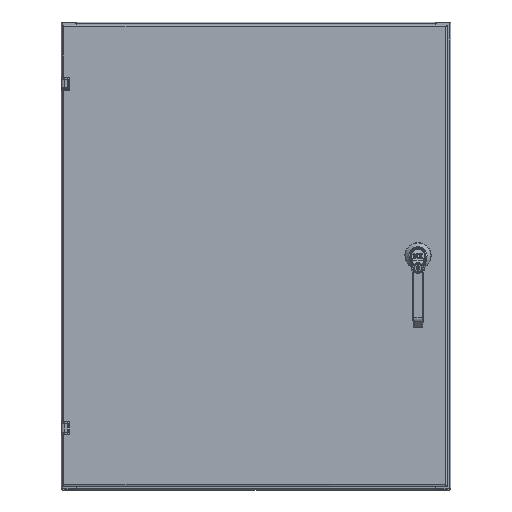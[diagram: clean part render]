
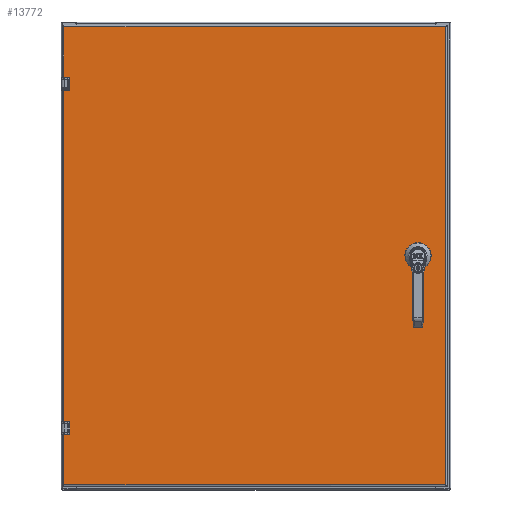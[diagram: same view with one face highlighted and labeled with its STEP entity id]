
A CAD part, top view. The second image highlights one B-rep face of the part: STEP entity #13772.
In plain terms, the highlighted planar face has unit normal (0, 0, 1).
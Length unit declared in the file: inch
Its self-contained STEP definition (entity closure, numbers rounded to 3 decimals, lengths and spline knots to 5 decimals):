
#10393=CARTESIAN_POINT('',(12.5625,-1.09,0.));
#10394=DIRECTION('',(0.,0.,1.));
#10395=DIRECTION('',(-1.,0.,0.));
#10396=AXIS2_PLACEMENT_3D('',#10393,#10394,#10395);
#10401=CARTESIAN_POINT('',(12.5625,-1.09,0.));
#10402=DIRECTION('',(0.,0.,1.));
#10403=DIRECTION('',(1.,0.,0.));
#10404=AXIS2_PLACEMENT_3D('',#10401,#10402,#10403);
#10409=DIRECTION('',(1.,0.,0.));
#10410=VECTOR('',#10409,0.39715);
#10411=CARTESIAN_POINT('',(12.36392,0.396,0.));
#10412=LINE('',#10411,#10410);
#10416=CARTESIAN_POINT('',(12.5625,0.,0.));
#10417=DIRECTION('',(0.,0.,1.));
#10418=DIRECTION('',(-0.448,0.894,0.));
#10419=AXIS2_PLACEMENT_3D('',#10416,#10417,#10418);
#10424=DIRECTION('',(0.,1.,0.));
#10425=VECTOR('',#10424,0.39715);
#10426=CARTESIAN_POINT('',(12.1665,-0.19858,0.));
#10427=LINE('',#10426,#10425);
#10431=CARTESIAN_POINT('',(12.5625,0.,0.));
#10432=DIRECTION('',(0.,0.,1.));
#10433=DIRECTION('',(-0.894,-0.448,0.));
#10434=AXIS2_PLACEMENT_3D('',#10431,#10432,#10433);
#10439=DIRECTION('',(-1.,0.,0.));
#10440=VECTOR('',#10439,0.39715);
#10441=CARTESIAN_POINT('',(12.76108,-0.396,0.));
#10442=LINE('',#10441,#10440);
#10446=CARTESIAN_POINT('',(12.5625,0.,0.));
#10447=DIRECTION('',(0.,0.,1.));
#10448=DIRECTION('',(0.448,-0.894,0.));
#10449=AXIS2_PLACEMENT_3D('',#10446,#10447,#10448);
#10454=DIRECTION('',(0.,-1.,0.));
#10455=VECTOR('',#10454,0.39715);
#10456=CARTESIAN_POINT('',(12.9585,0.19858,0.));
#10457=LINE('',#10456,#10455);
#10461=CARTESIAN_POINT('',(12.5625,0.,0.));
#10462=DIRECTION('',(0.,0.,1.));
#10463=DIRECTION('',(0.894,0.448,0.));
#10464=AXIS2_PLACEMENT_3D('',#10461,#10462,#10463);
#10469=DIRECTION('',(1.,0.,0.));
#10470=VECTOR('',#10469,0.363);
#10471=CARTESIAN_POINT('',(-14.6955,-13.595,0.));
#10472=LINE('',#10471,#10470);
#10476=DIRECTION('',(0.,-1.,0.));
#10477=VECTOR('',#10476,0.63);
#10478=CARTESIAN_POINT('',(-14.3025,-12.935,0.));
#10479=LINE('',#10478,#10477);
#10483=DIRECTION('',(1.,0.,0.));
#10484=VECTOR('',#10483,0.363);
#10485=CARTESIAN_POINT('',(-14.6955,-12.905,0.));
#10486=LINE('',#10485,#10484);
#10490=DIRECTION('',(1.,0.,0.));
#10491=VECTOR('',#10490,0.363);
#10492=CARTESIAN_POINT('',(-14.6955,12.905,0.));
#10493=LINE('',#10492,#10491);
#10497=DIRECTION('',(0.,-1.,0.));
#10498=VECTOR('',#10497,0.63);
#10499=CARTESIAN_POINT('',(-14.3025,13.565,0.));
#10500=LINE('',#10499,#10498);
#10504=DIRECTION('',(1.,0.,0.));
#10505=VECTOR('',#10504,0.363);
#10506=CARTESIAN_POINT('',(-14.6955,13.595,0.));
#10507=LINE('',#10506,#10505);
#11044=DIRECTION('',(0.,-1.,0.));
#11045=VECTOR('',#11044,35.266);
#11046=CARTESIAN_POINT('',(14.6955,17.633,0.));
#11047=LINE('',#11046,#11045);
#11116=DIRECTION('',(1.,0.,0.));
#11117=VECTOR('',#11116,29.391);
#11118=CARTESIAN_POINT('',(-14.6955,17.633,0.));
#11119=LINE('',#11118,#11117);
#11228=DIRECTION('',(0.,1.,0.));
#11229=VECTOR('',#11228,25.81);
#11230=CARTESIAN_POINT('',(-14.6955,-12.905,0.));
#11231=LINE('',#11230,#11229);
#11235=CARTESIAN_POINT('',(-14.6955,17.633,0.));
#11272=DIRECTION('',(0.,1.,0.));
#11273=VECTOR('',#11272,4.038);
#11274=CARTESIAN_POINT('',(-14.6955,13.595,0.));
#11275=LINE('',#11274,#11273);
#11330=DIRECTION('',(0.,1.,0.));
#11331=VECTOR('',#11330,4.038);
#11332=CARTESIAN_POINT('',(-14.6955,-17.633,0.));
#11333=LINE('',#11332,#11331);
#11367=CARTESIAN_POINT('',(-14.3325,-12.935,0.));
#11368=DIRECTION('',(0.,0.,-1.));
#11369=DIRECTION('',(0.,1.,0.));
#11370=AXIS2_PLACEMENT_3D('',#11367,#11368,#11369);
#11397=CARTESIAN_POINT('',(-14.3325,-13.565,0.));
#11398=DIRECTION('',(0.,0.,-1.));
#11399=DIRECTION('',(1.,0.,0.));
#11400=AXIS2_PLACEMENT_3D('',#11397,#11398,#11399);
#11799=DIRECTION('',(-1.,0.,0.));
#11800=VECTOR('',#11799,29.391);
#11801=CARTESIAN_POINT('',(14.6955,-17.633,0.));
#11802=LINE('',#11801,#11800);
#12154=CARTESIAN_POINT('',(-14.3325,13.565,0.));
#12155=DIRECTION('',(0.,0.,-1.));
#12156=DIRECTION('',(0.,1.,0.));
#12157=AXIS2_PLACEMENT_3D('',#12154,#12155,#12156);
#12184=CARTESIAN_POINT('',(-14.3325,12.935,0.));
#12185=DIRECTION('',(0.,0.,-1.));
#12186=DIRECTION('',(1.,0.,0.));
#12187=AXIS2_PLACEMENT_3D('',#12184,#12185,#12186);
#13295=CARTESIAN_POINT('',(14.6955,17.633,0.));
#13296=CARTESIAN_POINT('',(14.6955,-17.633,0.));
#13297=VERTEX_POINT('',#13295);
#13298=VERTEX_POINT('',#13296);
#13477=VERTEX_POINT('',#11235);
#13482=CARTESIAN_POINT('',(-14.6955,-17.633,0.));
#13484=VERTEX_POINT('',#13482);
#13557=CARTESIAN_POINT('',(12.4375,-1.09,0.));
#13558=CARTESIAN_POINT('',(12.6875,-1.09,0.));
#13559=VERTEX_POINT('',#13557);
#13560=VERTEX_POINT('',#13558);
#13561=CARTESIAN_POINT('',(12.36392,0.396,0.));
#13562=CARTESIAN_POINT('',(12.76108,0.396,0.));
#13563=VERTEX_POINT('',#13561);
#13564=VERTEX_POINT('',#13562);
#13565=CARTESIAN_POINT('',(12.9585,0.19858,0.));
#13566=VERTEX_POINT('',#13565);
#13567=CARTESIAN_POINT('',(12.9585,-0.19858,0.));
#13568=VERTEX_POINT('',#13567);
#13569=CARTESIAN_POINT('',(12.76108,-0.396,0.));
#13570=VERTEX_POINT('',#13569);
#13571=CARTESIAN_POINT('',(12.36392,-0.396,0.));
#13572=VERTEX_POINT('',#13571);
#13573=CARTESIAN_POINT('',(12.1665,-0.19858,0.));
#13574=VERTEX_POINT('',#13573);
#13575=CARTESIAN_POINT('',(12.1665,0.19858,0.));
#13576=VERTEX_POINT('',#13575);
#13613=CARTESIAN_POINT('',(-14.6955,12.905,0.));
#13615=VERTEX_POINT('',#13613);
#13617=CARTESIAN_POINT('',(-14.6955,13.595,0.));
#13619=VERTEX_POINT('',#13617);
#13629=CARTESIAN_POINT('',(-14.6955,-13.595,0.));
#13631=VERTEX_POINT('',#13629);
#13633=CARTESIAN_POINT('',(-14.6955,-12.905,0.));
#13635=VERTEX_POINT('',#13633);
#13645=CARTESIAN_POINT('',(-14.3325,13.595,0.));
#13647=VERTEX_POINT('',#13645);
#13649=CARTESIAN_POINT('',(-14.3025,13.565,0.));
#13651=VERTEX_POINT('',#13649);
#13653=CARTESIAN_POINT('',(-14.3025,12.935,0.));
#13655=VERTEX_POINT('',#13653);
#13657=CARTESIAN_POINT('',(-14.3325,12.905,0.));
#13659=VERTEX_POINT('',#13657);
#13685=CARTESIAN_POINT('',(-14.3025,-13.565,0.));
#13687=VERTEX_POINT('',#13685);
#13689=CARTESIAN_POINT('',(-14.3325,-13.595,0.));
#13691=VERTEX_POINT('',#13689);
#13693=CARTESIAN_POINT('',(-14.3325,-12.905,0.));
#13695=VERTEX_POINT('',#13693);
#13697=CARTESIAN_POINT('',(-14.3025,-12.935,0.));
#13699=VERTEX_POINT('',#13697);
#13709=CARTESIAN_POINT('',(0.,0.,0.));
#13710=DIRECTION('',(0.,0.,-1.));
#13711=DIRECTION('',(1.,0.,0.));
#13712=AXIS2_PLACEMENT_3D('',#13709,#13710,#13711);
#13713=PLANE('',#13712);
#13715=ORIENTED_EDGE('',*,*,#13714,.T.);
#13717=ORIENTED_EDGE('',*,*,#13716,.T.);
#13719=ORIENTED_EDGE('',*,*,#13718,.T.);
#13721=ORIENTED_EDGE('',*,*,#13720,.F.);
#13723=ORIENTED_EDGE('',*,*,#13722,.F.);
#13725=ORIENTED_EDGE('',*,*,#13724,.F.);
#13727=ORIENTED_EDGE('',*,*,#13726,.F.);
#13729=ORIENTED_EDGE('',*,*,#13728,.T.);
#13731=ORIENTED_EDGE('',*,*,#13730,.T.);
#13733=ORIENTED_EDGE('',*,*,#13732,.F.);
#13735=ORIENTED_EDGE('',*,*,#13734,.F.);
#13737=ORIENTED_EDGE('',*,*,#13736,.F.);
#13739=ORIENTED_EDGE('',*,*,#13738,.F.);
#13741=ORIENTED_EDGE('',*,*,#13740,.T.);
#13743=ORIENTED_EDGE('',*,*,#13742,.T.);
#13745=ORIENTED_EDGE('',*,*,#13744,.T.);
#13746=EDGE_LOOP('',(#13715,#13717,#13719,#13721,#13723,#13725,#13727,#13729,
#13731,#13733,#13735,#13737,#13739,#13741,#13743,#13745));
#13747=FACE_OUTER_BOUND('',#13746,.F.);
#13749=ORIENTED_EDGE('',*,*,#13748,.F.);
#13751=ORIENTED_EDGE('',*,*,#13750,.T.);
#13753=ORIENTED_EDGE('',*,*,#13752,.F.);
#13755=ORIENTED_EDGE('',*,*,#13754,.T.);
#13757=ORIENTED_EDGE('',*,*,#13756,.F.);
#13759=ORIENTED_EDGE('',*,*,#13758,.T.);
#13761=ORIENTED_EDGE('',*,*,#13760,.F.);
#13763=ORIENTED_EDGE('',*,*,#13762,.T.);
#13764=EDGE_LOOP('',(#13749,#13751,#13753,#13755,#13757,#13759,#13761,#13763));
#13765=FACE_BOUND('',#13764,.F.);
#13767=ORIENTED_EDGE('',*,*,#13766,.T.);
#13769=ORIENTED_EDGE('',*,*,#13768,.T.);
#13770=EDGE_LOOP('',(#13767,#13769));
#13771=FACE_BOUND('',#13770,.F.);
#10397=CIRCLE('',#10396,0.125);
#10405=CIRCLE('',#10404,0.125);
#10420=CIRCLE('',#10419,0.443);
#10435=CIRCLE('',#10434,0.443);
#10450=CIRCLE('',#10449,0.443);
#10465=CIRCLE('',#10464,0.443);
#11371=CIRCLE('',#11370,0.03);
#11401=CIRCLE('',#11400,0.03);
#12158=CIRCLE('',#12157,0.03);
#12188=CIRCLE('',#12187,0.03);
#13714=EDGE_CURVE('',#13298,#13484,#11802,.T.);
#13716=EDGE_CURVE('',#13484,#13631,#11333,.T.);
#13718=EDGE_CURVE('',#13631,#13691,#10472,.T.);
#13720=EDGE_CURVE('',#13687,#13691,#11401,.T.);
#13722=EDGE_CURVE('',#13699,#13687,#10479,.T.);
#13724=EDGE_CURVE('',#13695,#13699,#11371,.T.);
#13726=EDGE_CURVE('',#13635,#13695,#10486,.T.);
#13728=EDGE_CURVE('',#13635,#13615,#11231,.T.);
#13730=EDGE_CURVE('',#13615,#13659,#10493,.T.);
#13732=EDGE_CURVE('',#13655,#13659,#12188,.T.);
#13734=EDGE_CURVE('',#13651,#13655,#10500,.T.);
#13736=EDGE_CURVE('',#13647,#13651,#12158,.T.);
#13738=EDGE_CURVE('',#13619,#13647,#10507,.T.);
#13740=EDGE_CURVE('',#13619,#13477,#11275,.T.);
#13742=EDGE_CURVE('',#13477,#13297,#11119,.T.);
#13744=EDGE_CURVE('',#13297,#13298,#11047,.T.);
#13748=EDGE_CURVE('',#13563,#13564,#10412,.T.);
#13750=EDGE_CURVE('',#13563,#13576,#10420,.T.);
#13752=EDGE_CURVE('',#13574,#13576,#10427,.T.);
#13754=EDGE_CURVE('',#13574,#13572,#10435,.T.);
#13756=EDGE_CURVE('',#13570,#13572,#10442,.T.);
#13758=EDGE_CURVE('',#13570,#13568,#10450,.T.);
#13760=EDGE_CURVE('',#13566,#13568,#10457,.T.);
#13762=EDGE_CURVE('',#13566,#13564,#10465,.T.);
#13766=EDGE_CURVE('',#13559,#13560,#10397,.T.);
#13768=EDGE_CURVE('',#13560,#13559,#10405,.T.);
#13772=ADVANCED_FACE('',(#13747,#13765,#13771),#13713,.F.);
